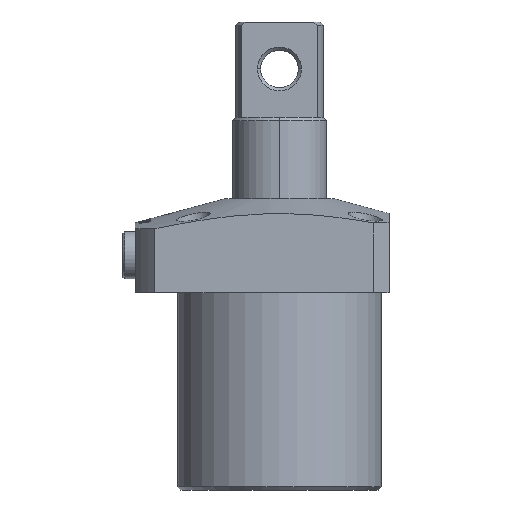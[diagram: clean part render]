
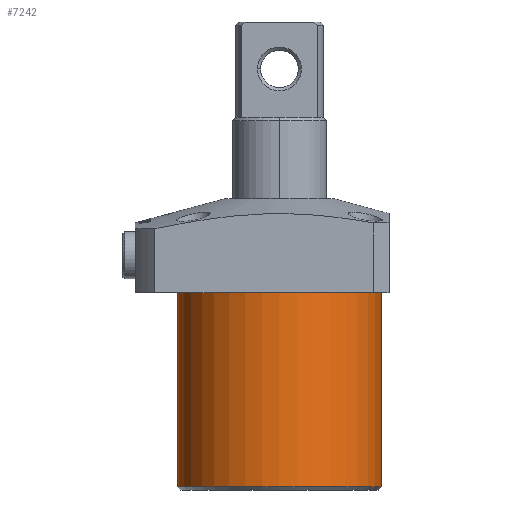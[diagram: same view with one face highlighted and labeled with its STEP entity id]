
A CAD part, front view. The second image highlights one B-rep face of the part: STEP entity #7242.
In plain terms, the highlighted cylindrical face has radius 32.5 mm (diameter 65 mm), a partial arc.
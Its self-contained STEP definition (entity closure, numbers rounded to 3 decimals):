
#23 = LINE ( 'NONE', #12316, #15112 ) ;
#277 = EDGE_CURVE ( 'NONE', #13778, #3372, #8787, .T. ) ;
#390 = CIRCLE ( 'NONE', #8997, 32.5 ) ;
#443 = CARTESIAN_POINT ( 'NONE',  ( -32.5, 0., 0. ) ) ;
#509 = EDGE_LOOP ( 'NONE', ( #13183, #7874, #816, #10412 ) ) ;
#786 = CARTESIAN_POINT ( 'NONE',  ( 32.5, 0., -63. ) ) ;
#816 = ORIENTED_EDGE ( 'NONE', *, *, #2453, .T. ) ;
#1271 = CARTESIAN_POINT ( 'NONE',  ( 32.5, 0., -62. ) ) ;
#2317 = DIRECTION ( 'NONE',  ( 0., 0., 1. ) ) ;
#2453 = EDGE_CURVE ( 'NONE', #3372, #9489, #3707, .T. ) ;
#2617 = DIRECTION ( 'NONE',  ( 0., 0., -1. ) ) ;
#3372 = VERTEX_POINT ( 'NONE', #1271 ) ;
#3707 = LINE ( 'NONE', #786, #6897 ) ;
#5181 = DIRECTION ( 'NONE',  ( 1., 0., 0. ) ) ;
#5218 = DIRECTION ( 'NONE',  ( 0., 0., 1. ) ) ;
#5859 = CYLINDRICAL_SURFACE ( 'NONE', #7038, 32.5 ) ;
#6891 = CARTESIAN_POINT ( 'NONE',  ( 0., 0., -62. ) ) ;
#6897 = VECTOR ( 'NONE', #9148, 1000. ) ;
#7038 = AXIS2_PLACEMENT_3D ( 'NONE', #8676, #14666, #5181 ) ;
#7242 = ADVANCED_FACE ( 'NONE', ( #15299 ), #5859, .T. ) ;
#7763 = EDGE_CURVE ( 'NONE', #13778, #10834, #23, .T. ) ;
#7874 = ORIENTED_EDGE ( 'NONE', *, *, #277, .T. ) ;
#8280 = AXIS2_PLACEMENT_3D ( 'NONE', #6891, #2317, #8289 ) ;
#8289 = DIRECTION ( 'NONE',  ( -1., 0., 0. ) ) ;
#8676 = CARTESIAN_POINT ( 'NONE',  ( 0., 0., -63. ) ) ;
#8787 = CIRCLE ( 'NONE', #8280, 32.5 ) ;
#8997 = AXIS2_PLACEMENT_3D ( 'NONE', #9783, #2617, #10954 ) ;
#9148 = DIRECTION ( 'NONE',  ( 0., 0., 1. ) ) ;
#9489 = VERTEX_POINT ( 'NONE', #10846 ) ;
#9783 = CARTESIAN_POINT ( 'NONE',  ( 0., 0., 0. ) ) ;
#10412 = ORIENTED_EDGE ( 'NONE', *, *, #11290, .T. ) ;
#10834 = VERTEX_POINT ( 'NONE', #443 ) ;
#10846 = CARTESIAN_POINT ( 'NONE',  ( 32.5, 0., 0. ) ) ;
#10954 = DIRECTION ( 'NONE',  ( -1., 0., 0. ) ) ;
#11290 = EDGE_CURVE ( 'NONE', #9489, #10834, #390, .T. ) ;
#12316 = CARTESIAN_POINT ( 'NONE',  ( -32.5, 0., -63. ) ) ;
#12878 = CARTESIAN_POINT ( 'NONE',  ( -32.5, 0., -62. ) ) ;
#13183 = ORIENTED_EDGE ( 'NONE', *, *, #7763, .F. ) ;
#13778 = VERTEX_POINT ( 'NONE', #12878 ) ;
#14666 = DIRECTION ( 'NONE',  ( 0., 0., 1. ) ) ;
#15112 = VECTOR ( 'NONE', #5218, 1000. ) ;
#15299 = FACE_OUTER_BOUND ( 'NONE', #509, .T. ) ;
